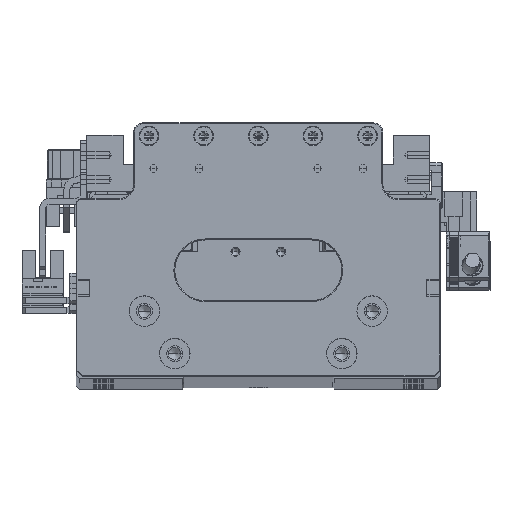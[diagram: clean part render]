
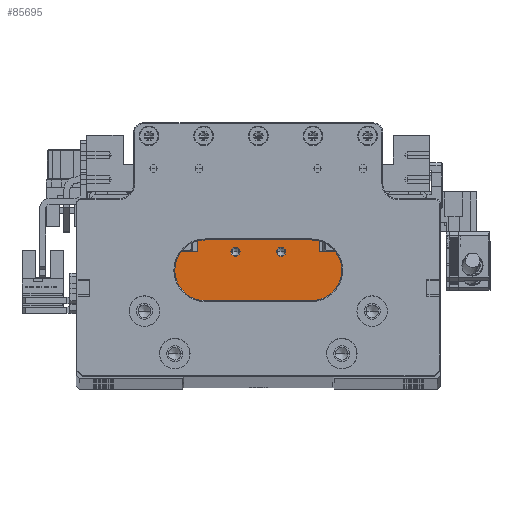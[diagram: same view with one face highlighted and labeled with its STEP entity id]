
A CAD part, top view. The second image highlights one B-rep face of the part: STEP entity #85695.
In plain terms, the highlighted planar face has unit normal (0, 0, 1).
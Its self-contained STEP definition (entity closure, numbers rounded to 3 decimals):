
#24 = EDGE_LOOP ( 'NONE', ( #92908, #71401 ) ) ;
#2376 = ORIENTED_EDGE ( 'NONE', *, *, #117341, .F. ) ;
#6460 = LINE ( 'NONE', #57419, #58241 ) ;
#8490 = VERTEX_POINT ( 'NONE', #124198 ) ;
#10065 = CARTESIAN_POINT ( 'NONE',  ( -52.725, 59.78, 462.722 ) ) ;
#12200 = CARTESIAN_POINT ( 'NONE',  ( -52.725, 78.98, 462.722 ) ) ;
#13135 = ORIENTED_EDGE ( 'NONE', *, *, #33823, .F. ) ;
#13476 = DIRECTION ( 'NONE',  ( 1., 0., 0. ) ) ;
#13978 = EDGE_LOOP ( 'NONE', ( #131671, #120804, #108689, #140472, #35536, #134262, #123839, #13135 ) ) ;
#14361 = EDGE_CURVE ( 'NONE', #133424, #102669, #92270, .T. ) ;
#18481 = VECTOR ( 'NONE', #91998, 1000. ) ;
#20152 = DIRECTION ( 'NONE',  ( 0., 0., 1. ) ) ;
#20921 = DIRECTION ( 'NONE',  ( 0., 0., 1. ) ) ;
#21380 = DIRECTION ( 'NONE',  ( 0., 0., 1. ) ) ;
#23235 = FACE_BOUND ( 'NONE', #24, .T. ) ;
#30930 = EDGE_CURVE ( 'NONE', #76248, #38403, #52676, .T. ) ;
#30939 = EDGE_CURVE ( 'NONE', #123160, #136538, #82137, .T. ) ;
#32466 = DIRECTION ( 'NONE',  ( 1., 0., 0. ) ) ;
#33499 = VECTOR ( 'NONE', #81921, 1000. ) ;
#33823 = EDGE_CURVE ( 'NONE', #127251, #90389, #38480, .T. ) ;
#34110 = EDGE_CURVE ( 'NONE', #86128, #133424, #118059, .T. ) ;
#34262 = CARTESIAN_POINT ( 'NONE',  ( -112.525, 59.78, 462.722 ) ) ;
#35536 = ORIENTED_EDGE ( 'NONE', *, *, #34110, .F. ) ;
#38403 = VERTEX_POINT ( 'NONE', #93256 ) ;
#38480 = LINE ( 'NONE', #116194, #130343 ) ;
#40036 = AXIS2_PLACEMENT_3D ( 'NONE', #44914, #122423, #56012 ) ;
#42623 = DIRECTION ( 'NONE',  ( 0., 0., 1. ) ) ;
#44914 = CARTESIAN_POINT ( 'NONE',  ( -90.125, 71.48, 462.722 ) ) ;
#45442 = CARTESIAN_POINT ( 'NONE',  ( -62.625, 78.98, 462.722 ) ) ;
#49829 = DIRECTION ( 'NONE',  ( 0., 1., 0. ) ) ;
#52676 = CIRCLE ( 'NONE', #94962, 1.525 ) ;
#53825 = AXIS2_PLACEMENT_3D ( 'NONE', #108963, #42623, #120100 ) ;
#55624 = CIRCLE ( 'NONE', #53825, 1.525 ) ;
#56012 = DIRECTION ( 'NONE',  ( -1., 0., 0. ) ) ;
#56471 = EDGE_CURVE ( 'NONE', #76958, #8490, #110528, .T. ) ;
#57419 = CARTESIAN_POINT ( 'NONE',  ( -90.125, 82.98, 462.722 ) ) ;
#57516 = EDGE_CURVE ( 'NONE', #90389, #120461, #6460, .T. ) ;
#58241 = VECTOR ( 'NONE', #13476, 1000. ) ;
#60439 = EDGE_CURVE ( 'NONE', #8490, #76958, #104416, .T. ) ;
#65282 = CARTESIAN_POINT ( 'NONE',  ( -90.125, 78.98, 462.722 ) ) ;
#69783 = CARTESIAN_POINT ( 'NONE',  ( -102.625, 82.98, 462.722 ) ) ;
#70021 = CARTESIAN_POINT ( 'NONE',  ( -102.625, 78.98, 462.722 ) ) ;
#71401 = ORIENTED_EDGE ( 'NONE', *, *, #56471, .F. ) ;
#76248 = VERTEX_POINT ( 'NONE', #133862 ) ;
#76958 = VERTEX_POINT ( 'NONE', #125892 ) ;
#78582 = FACE_OUTER_BOUND ( 'NONE', #13978, .T. ) ;
#78676 = VECTOR ( 'NONE', #108708, 1000. ) ;
#80757 = LINE ( 'NONE', #80874, #18481 ) ;
#80874 = CARTESIAN_POINT ( 'NONE',  ( -62.625, 71.48, 462.722 ) ) ;
#80949 = VECTOR ( 'NONE', #99013, 1000. ) ;
#81921 = DIRECTION ( 'NONE',  ( 0., -1., 0. ) ) ;
#82137 = LINE ( 'NONE', #141664, #78676 ) ;
#82799 = CARTESIAN_POINT ( 'NONE',  ( -112.525, 78.98, 462.722 ) ) ;
#85695 = ADVANCED_FACE ( 'NONE', ( #78582, #23235, #137566 ), #100101, .F. ) ;
#86128 = VERTEX_POINT ( 'NONE', #45442 ) ;
#86364 = CARTESIAN_POINT ( 'NONE',  ( -90.125, 79.08, 462.722 ) ) ;
#87160 = CARTESIAN_POINT ( 'NONE',  ( -75.125, 79.08, 462.722 ) ) ;
#87612 = CARTESIAN_POINT ( 'NONE',  ( -75.125, 79.08, 462.722 ) ) ;
#87855 = CARTESIAN_POINT ( 'NONE',  ( -90.125, 78.98, 462.722 ) ) ;
#88569 = VECTOR ( 'NONE', #32466, 1000. ) ;
#90389 = VERTEX_POINT ( 'NONE', #69783 ) ;
#91504 = DIRECTION ( 'NONE',  ( 1., 0., 0. ) ) ;
#91998 = DIRECTION ( 'NONE',  ( 0., -1., 0. ) ) ;
#92270 = LINE ( 'NONE', #93084, #33499 ) ;
#92908 = ORIENTED_EDGE ( 'NONE', *, *, #60439, .F. ) ;
#93084 = CARTESIAN_POINT ( 'NONE',  ( -52.725, 71.48, 462.722 ) ) ;
#93256 = CARTESIAN_POINT ( 'NONE',  ( -88.6, 79.08, 462.722 ) ) ;
#93868 = ORIENTED_EDGE ( 'NONE', *, *, #30930, .F. ) ;
#94962 = AXIS2_PLACEMENT_3D ( 'NONE', #86364, #20152, #97568 ) ;
#97502 = AXIS2_PLACEMENT_3D ( 'NONE', #87160, #20921, #98335 ) ;
#97568 = DIRECTION ( 'NONE',  ( 1., 0., 0. ) ) ;
#98335 = DIRECTION ( 'NONE',  ( 1., 0., 0. ) ) ;
#98773 = DIRECTION ( 'NONE',  ( 1., 0., 0. ) ) ;
#99013 = DIRECTION ( 'NONE',  ( 1., 0., 0. ) ) ;
#100101 = PLANE ( 'NONE',  #40036 ) ;
#100867 = AXIS2_PLACEMENT_3D ( 'NONE', #87612, #21380, #98773 ) ;
#102669 = VERTEX_POINT ( 'NONE', #10065 ) ;
#103014 = EDGE_LOOP ( 'NONE', ( #2376, #93868 ) ) ;
#104416 = CIRCLE ( 'NONE', #97502, 1.525 ) ;
#105476 = EDGE_CURVE ( 'NONE', #120461, #86128, #80757, .T. ) ;
#108689 = ORIENTED_EDGE ( 'NONE', *, *, #131134, .T. ) ;
#108708 = DIRECTION ( 'NONE',  ( 0., 1., 0. ) ) ;
#108963 = CARTESIAN_POINT ( 'NONE',  ( -90.125, 79.08, 462.722 ) ) ;
#110528 = CIRCLE ( 'NONE', #100867, 1.525 ) ;
#113799 = CARTESIAN_POINT ( 'NONE',  ( -90.125, 59.78, 462.722 ) ) ;
#113889 = LINE ( 'NONE', #87855, #80949 ) ;
#115362 = CARTESIAN_POINT ( 'NONE',  ( -62.625, 82.98, 462.722 ) ) ;
#116194 = CARTESIAN_POINT ( 'NONE',  ( -102.625, 71.48, 462.722 ) ) ;
#117341 = EDGE_CURVE ( 'NONE', #38403, #76248, #55624, .T. ) ;
#118059 = LINE ( 'NONE', #65282, #88569 ) ;
#118343 = LINE ( 'NONE', #113799, #121839 ) ;
#120100 = DIRECTION ( 'NONE',  ( 1., 0., 0. ) ) ;
#120461 = VERTEX_POINT ( 'NONE', #115362 ) ;
#120804 = ORIENTED_EDGE ( 'NONE', *, *, #30939, .F. ) ;
#121839 = VECTOR ( 'NONE', #91504, 1000. ) ;
#122423 = DIRECTION ( 'NONE',  ( 0., 0., -1. ) ) ;
#123160 = VERTEX_POINT ( 'NONE', #34262 ) ;
#123839 = ORIENTED_EDGE ( 'NONE', *, *, #57516, .F. ) ;
#124198 = CARTESIAN_POINT ( 'NONE',  ( -73.6, 79.08, 462.722 ) ) ;
#125892 = CARTESIAN_POINT ( 'NONE',  ( -76.65, 79.08, 462.722 ) ) ;
#127251 = VERTEX_POINT ( 'NONE', #70021 ) ;
#130343 = VECTOR ( 'NONE', #49829, 1000. ) ;
#131134 = EDGE_CURVE ( 'NONE', #123160, #102669, #118343, .T. ) ;
#131671 = ORIENTED_EDGE ( 'NONE', *, *, #141375, .F. ) ;
#133424 = VERTEX_POINT ( 'NONE', #12200 ) ;
#133862 = CARTESIAN_POINT ( 'NONE',  ( -91.65, 79.08, 462.722 ) ) ;
#134262 = ORIENTED_EDGE ( 'NONE', *, *, #105476, .F. ) ;
#136538 = VERTEX_POINT ( 'NONE', #82799 ) ;
#137566 = FACE_BOUND ( 'NONE', #103014, .T. ) ;
#140472 = ORIENTED_EDGE ( 'NONE', *, *, #14361, .F. ) ;
#141375 = EDGE_CURVE ( 'NONE', #136538, #127251, #113889, .T. ) ;
#141664 = CARTESIAN_POINT ( 'NONE',  ( -112.525, 71.48, 462.722 ) ) ;
